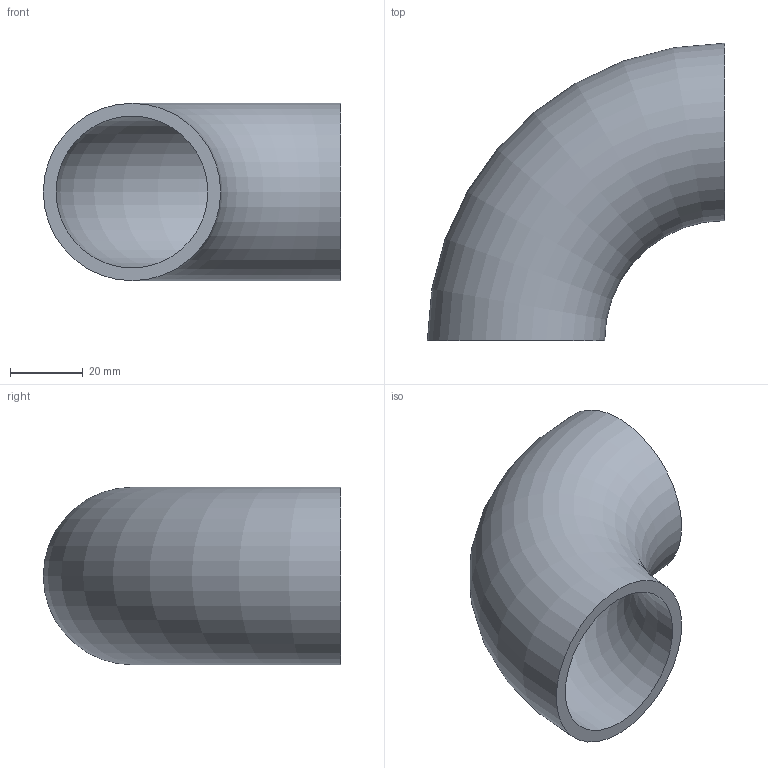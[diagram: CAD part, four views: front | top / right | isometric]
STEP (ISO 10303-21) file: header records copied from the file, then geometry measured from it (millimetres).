
FILE_DESCRIPTION(/* description */ (''),/* implementation_level */ '2;1');
FILE_NAME(/* name */ 'C:\Users\D\Documents\Inventor\HP\JIS\配管\エルボ ロング 90°\SGP\Elbow-long-90-40A-SGP.stp',/* time_stamp */ '2022-06-09T18:43:27+09:00',/* author */ ('D'),/* organization */ (''),/* preprocessor_version */ 'ST-DEVELOPER v18',/* originating_system */ 'Autodesk Inventor 2020',/* authorisation */ '');
FILE_SCHEMA (('AUTOMOTIVE_DESIGN { 1 0 10303 214 3 1 1 }'));
Length unit declared in the file: millimetre
Products named in the file (1): Elbow-long-90-15A-SGP
Bounding box: 81.5 x 81.5 x 48.6 mm (x, y, z)
Volume: 44556.4 mm3; surface area: 26452.6 mm2
Topology: 1 solids, 1 shells, 4 faces, 10 edges, 8 vertices
Faces by surface type: torus 2, plane 2
Entity records: 181 total; most frequent: DIRECTION 30, CARTESIAN_POINT 23, ORIENTED_EDGE 20, AXIS2_PLACEMENT_3D 15, CIRCLE 10, EDGE_CURVE 10, VERTEX_POINT 8, EDGE_LOOP 6
